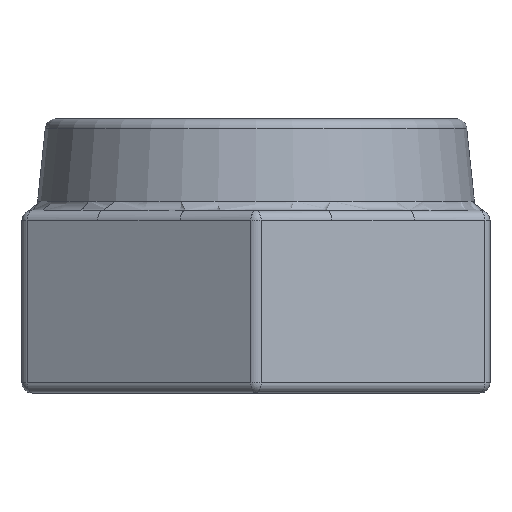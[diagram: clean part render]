
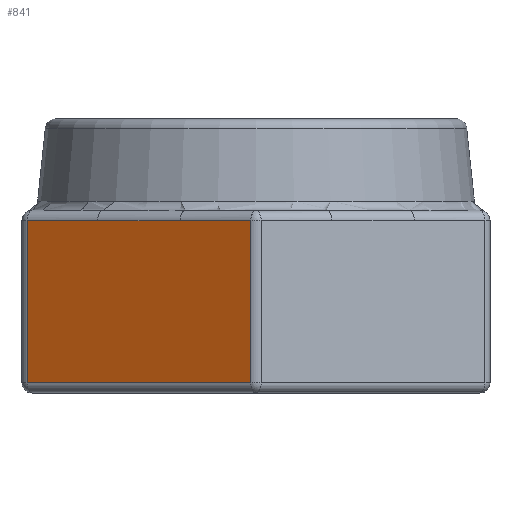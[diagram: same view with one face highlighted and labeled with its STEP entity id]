
A CAD part, front view. The second image highlights one B-rep face of the part: STEP entity #841.
In plain terms, the highlighted planar face has unit normal (-0.5, -0.866, 0).
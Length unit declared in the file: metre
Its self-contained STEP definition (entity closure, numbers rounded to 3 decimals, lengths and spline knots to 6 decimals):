
#43=B_SPLINE_CURVE_WITH_KNOTS('',3,(#1436,#1437,#1438,#1439,#1440),
 .UNSPECIFIED.,.F.,.F.,(4,1,4),(0.,0.781595,1.563191),
 .UNSPECIFIED.);
#97=LINE('',#1429,#145);
#98=LINE('',#1442,#146);
#99=LINE('',#1445,#147);
#100=LINE('',#1446,#148);
#101=LINE('',#1448,#149);
#145=VECTOR('',#1083,1.);
#146=VECTOR('',#1088,1.);
#147=VECTOR('',#1089,1.);
#148=VECTOR('',#1090,1.);
#149=VECTOR('',#1091,1.);
#242=ORIENTED_EDGE('',*,*,#470,.F.);
#243=ORIENTED_EDGE('',*,*,#471,.F.);
#244=ORIENTED_EDGE('',*,*,#467,.F.);
#245=ORIENTED_EDGE('',*,*,#469,.F.);
#246=ORIENTED_EDGE('',*,*,#472,.F.);
#247=ORIENTED_EDGE('',*,*,#473,.F.);
#467=EDGE_CURVE('',#579,#578,#97,.T.);
#469=EDGE_CURVE('',#580,#579,#43,.T.);
#470=EDGE_CURVE('',#581,#582,#98,.T.);
#471=EDGE_CURVE('',#578,#581,#99,.T.);
#472=EDGE_CURVE('',#583,#580,#100,.T.);
#473=EDGE_CURVE('',#582,#583,#101,.T.);
#578=VERTEX_POINT('',#1423);
#579=VERTEX_POINT('',#1428);
#580=VERTEX_POINT('',#1435);
#581=VERTEX_POINT('',#1443);
#582=VERTEX_POINT('',#1444);
#583=VERTEX_POINT('',#1447);
#683=EDGE_LOOP('',(#242,#243,#244,#245,#246,#247));
#755=FACE_BOUND('',#683,.T.);
#816=PLANE('',#931);
#841=ADVANCED_FACE('',(#755),#816,.F.);
#931=AXIS2_PLACEMENT_3D('',#1441,#1086,#1087);
#1083=DIRECTION('',(0.866,-0.5,0.));
#1086=DIRECTION('',(0.5,0.866,0.));
#1087=DIRECTION('',(0.,0.,-1.));
#1088=DIRECTION('',(-0.866,0.5,0.));
#1089=DIRECTION('',(0.,0.,-1.));
#1090=DIRECTION('',(0.866,-0.5,0.));
#1091=DIRECTION('',(0.,0.,1.));
#1423=CARTESIAN_POINT('',(-0.060762,0.053453,0.217653));
#1428=CARTESIAN_POINT('',(-0.06192,0.054122,0.217653));
#1429=CARTESIAN_POINT('',(-0.060762,0.053453,0.217653));
#1435=CARTESIAN_POINT('',(-0.063274,0.054903,0.217653));
#1436=CARTESIAN_POINT('',(-0.063274,0.054903,0.217653));
#1437=CARTESIAN_POINT('',(-0.063048,0.054773,0.217653));
#1438=CARTESIAN_POINT('',(-0.062597,0.054513,0.217673));
#1439=CARTESIAN_POINT('',(-0.062146,0.054252,0.217653));
#1440=CARTESIAN_POINT('',(-0.06192,0.054122,0.217653));
#1441=CARTESIAN_POINT('',(-0.060677,0.053404,0.217823));
#1442=CARTESIAN_POINT('',(-0.060762,0.053453,0.214993));
#1443=CARTESIAN_POINT('',(-0.060762,0.053453,0.214993));
#1444=CARTESIAN_POINT('',(-0.064433,0.055572,0.214993));
#1445=CARTESIAN_POINT('',(-0.060762,0.053453,0.217653));
#1446=CARTESIAN_POINT('',(-0.063274,0.054903,0.217653));
#1447=CARTESIAN_POINT('',(-0.064433,0.055572,0.217653));
#1448=CARTESIAN_POINT('',(-0.064433,0.055572,0.217653));
